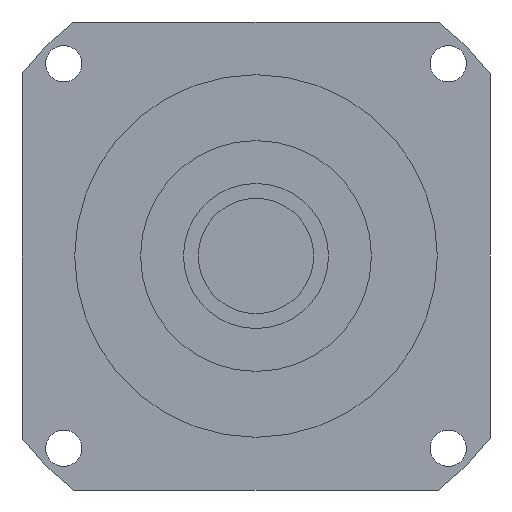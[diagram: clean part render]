
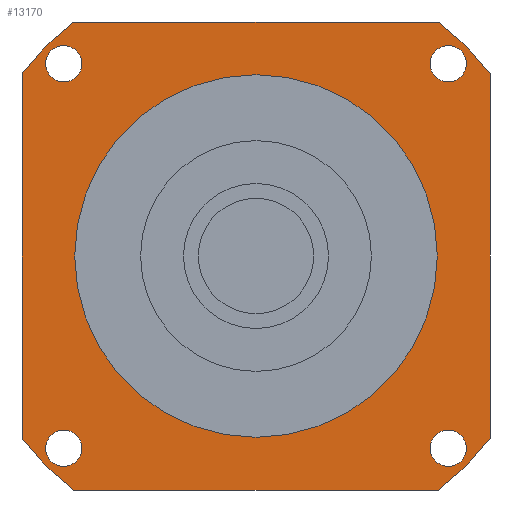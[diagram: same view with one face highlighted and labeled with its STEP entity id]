
A CAD part, left-side view. The second image highlights one B-rep face of the part: STEP entity #13170.
In plain terms, the highlighted planar face has unit normal (-1, 0, 0) as drawn and (0, 0, -1) by its records, which use the part's own axes.
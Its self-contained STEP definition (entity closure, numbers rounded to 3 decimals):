
#10190=CARTESIAN_POINT('',(71.,55.308,-84.7));
#10200=VERTEX_POINT('',#10190);
#10250=CARTESIAN_POINT('',(71.,71.,-84.7));
#10260=DIRECTION('',(0.,-1.,0.));
#10270=VECTOR('',#10260,1000.);
#10280=LINE('',#10250,#10270);
#10290=CARTESIAN_POINT('',(71.,-55.308,-84.7));
#10300=VERTEX_POINT('',#10290);
#10310=EDGE_CURVE('',#10200,#10300,#10280,.T.);
#10590=CARTESIAN_POINT('',(-55.308,71.,-84.7));
#10600=VERTEX_POINT('',#10590);
#10780=CARTESIAN_POINT('',(-71.,55.308,-84.7));
#10790=VERTEX_POINT('',#10780);
#10820=CARTESIAN_POINT('',(0.,0.,
-84.7));
#10830=DIRECTION('',(0.,0.,-1.));
#10840=DIRECTION('',(1.,0.,0.));
#10850=AXIS2_PLACEMENT_3D('',#10820,#10830,#10840);
#10860=CIRCLE('',#10850,90.);
#10870=EDGE_CURVE('',#10790,#10600,#10860,.T.);
#11670=CARTESIAN_POINT('',(55.,0.,-84.7));
#11680=VERTEX_POINT('',#11670);
#11710=CARTESIAN_POINT('',(0.,0.,
-84.7));
#11720=DIRECTION('',(0.,0.,1.));
#11730=DIRECTION('',(0.,1.,0.));
#11740=AXIS2_PLACEMENT_3D('',#11710,#11720,#11730);
#11750=CIRCLE('',#11740,55.);
#11760=CARTESIAN_POINT('',(0.,55.,-84.7));
#11770=VERTEX_POINT('',#11760);
#11780=EDGE_CURVE('',#11680,#11770,#11750,.T.);
#11800=CARTESIAN_POINT('',(-55.,0.,-84.7));
#11810=VERTEX_POINT('',#11800);
#11820=EDGE_CURVE('',#11770,#11810,#11750,.T.);
#11950=CARTESIAN_POINT('',(71.,71.,-84.7));
#11960=DIRECTION('',(0.,0.,-1.));
#11970=DIRECTION('',(1.,0.,0.));
#11980=AXIS2_PLACEMENT_3D('',#11950,#11960,#11970);
#11990=PLANE('',#11980);
#12000=CARTESIAN_POINT('',(-58.336,-58.336,-84.7));
#12010=DIRECTION('',(0.,0.,-1.));
#12020=DIRECTION('',(0.,-1.,0.));
#12030=AXIS2_PLACEMENT_3D('',#12000,#12010,#12020);
#12040=CIRCLE('',#12030,5.5);
#12050=CARTESIAN_POINT('',(-58.336,-63.836,-84.7));
#12060=VERTEX_POINT('',#12050);
#12070=CARTESIAN_POINT('',(-58.336,-52.836,-84.7));
#12080=VERTEX_POINT('',#12070);
#12090=EDGE_CURVE('',#12060,#12080,#12040,.T.);
#12100=ORIENTED_EDGE('',*,*,#12090,.F.);
#12110=EDGE_CURVE('',#12080,#12060,#12040,.T.);
#12120=ORIENTED_EDGE('',*,*,#12110,.F.);
#12130=EDGE_LOOP('',(#12120,#12100));
#12140=FACE_BOUND('',#12130,.T.);
#12150=CARTESIAN_POINT('',(-58.336,58.336,-84.7));
#12160=DIRECTION('',(0.,0.,-1.));
#12170=DIRECTION('',(-1.,0.,0.));
#12180=AXIS2_PLACEMENT_3D('',#12150,#12160,#12170);
#12190=CIRCLE('',#12180,5.5);
#12200=CARTESIAN_POINT('',(-63.836,58.336,-84.7));
#12210=VERTEX_POINT('',#12200);
#12220=CARTESIAN_POINT('',(-52.836,58.336,-84.7));
#12230=VERTEX_POINT('',#12220);
#12240=EDGE_CURVE('',#12210,#12230,#12190,.T.);
#12250=ORIENTED_EDGE('',*,*,#12240,.F.);
#12260=EDGE_CURVE('',#12230,#12210,#12190,.T.);
#12270=ORIENTED_EDGE('',*,*,#12260,.F.);
#12280=EDGE_LOOP('',(#12270,#12250));
#12290=FACE_BOUND('',#12280,.T.);
#12300=CARTESIAN_POINT('',(58.336,58.336,-84.7));
#12310=DIRECTION('',(0.,0.,-1.));
#12320=DIRECTION('',(0.,1.,0.));
#12330=AXIS2_PLACEMENT_3D('',#12300,#12310,#12320);
#12340=CIRCLE('',#12330,5.5);
#12350=CARTESIAN_POINT('',(58.336,63.836,-84.7));
#12360=VERTEX_POINT('',#12350);
#12370=CARTESIAN_POINT('',(58.336,52.836,-84.7));
#12380=VERTEX_POINT('',#12370);
#12390=EDGE_CURVE('',#12360,#12380,#12340,.T.);
#12400=ORIENTED_EDGE('',*,*,#12390,.F.);
#12410=EDGE_CURVE('',#12380,#12360,#12340,.T.);
#12420=ORIENTED_EDGE('',*,*,#12410,.F.);
#12430=EDGE_LOOP('',(#12420,#12400));
#12440=FACE_BOUND('',#12430,.T.);
#12450=EDGE_CURVE('',#11810,#11680,#11750,.T.);
#12460=ORIENTED_EDGE('',*,*,#12450,.T.);
#12470=ORIENTED_EDGE('',*,*,#11820,.T.);
#12480=ORIENTED_EDGE('',*,*,#11780,.T.);
#12490=EDGE_LOOP('',(#12480,#12470,#12460));
#12500=FACE_BOUND('',#12490,.T.);
#12510=CARTESIAN_POINT('',(-71.,71.,-84.7));
#12520=DIRECTION('',(1.,0.,0.));
#12530=VECTOR('',#12520,1000.);
#12540=LINE('',#12510,#12530);
#12550=CARTESIAN_POINT('',(55.308,71.,-84.7));
#12560=VERTEX_POINT('',#12550);
#12570=EDGE_CURVE('',#10600,#12560,#12540,.T.);
#12580=ORIENTED_EDGE('',*,*,#12570,.T.);
#12590=ORIENTED_EDGE('',*,*,#10870,.T.);
#12600=CARTESIAN_POINT('',(-71.,-71.,-84.7));
#12610=DIRECTION('',(0.,1.,0.));
#12620=VECTOR('',#12610,1000.);
#12630=LINE('',#12600,#12620);
#12640=CARTESIAN_POINT('',(-71.,-55.308,-84.7));
#12650=VERTEX_POINT('',#12640);
#12660=EDGE_CURVE('',#12650,#10790,#12630,.T.);
#12670=ORIENTED_EDGE('',*,*,#12660,.T.);
#12680=CARTESIAN_POINT('',(0.,0.,
-84.7));
#12690=DIRECTION('',(0.,0.,-1.));
#12700=DIRECTION('',(1.,0.,0.));
#12710=AXIS2_PLACEMENT_3D('',#12680,#12690,#12700);
#12720=CIRCLE('',#12710,90.);
#12730=CARTESIAN_POINT('',(-55.308,-71.,-84.7));
#12740=VERTEX_POINT('',#12730);
#12750=EDGE_CURVE('',#12740,#12650,#12720,.T.);
#12760=ORIENTED_EDGE('',*,*,#12750,.T.);
#12770=CARTESIAN_POINT('',(71.,-71.,-84.7));
#12780=DIRECTION('',(-1.,0.,0.));
#12790=VECTOR('',#12780,1000.);
#12800=LINE('',#12770,#12790);
#12810=CARTESIAN_POINT('',(55.308,-71.,-84.7));
#12820=VERTEX_POINT('',#12810);
#12830=EDGE_CURVE('',#12820,#12740,#12800,.T.);
#12840=ORIENTED_EDGE('',*,*,#12830,.T.);
#12850=CARTESIAN_POINT('',(0.,0.,
-84.7));
#12860=DIRECTION('',(0.,0.,-1.));
#12870=DIRECTION('',(1.,0.,0.));
#12880=AXIS2_PLACEMENT_3D('',#12850,#12860,#12870);
#12890=CIRCLE('',#12880,90.);
#12900=EDGE_CURVE('',#10300,#12820,#12890,.T.);
#12910=ORIENTED_EDGE('',*,*,#12900,.T.);
#12920=ORIENTED_EDGE('',*,*,#10310,.T.);
#12930=CARTESIAN_POINT('',(0.,0.,
-84.7));
#12940=DIRECTION('',(0.,0.,-1.));
#12950=DIRECTION('',(1.,0.,0.));
#12960=AXIS2_PLACEMENT_3D('',#12930,#12940,#12950);
#12970=CIRCLE('',#12960,90.);
#12980=EDGE_CURVE('',#12560,#10200,#12970,.T.);
#12990=ORIENTED_EDGE('',*,*,#12980,.T.);
#13000=EDGE_LOOP('',(#12990,#12920,#12910,#12840,#12760,#12670,#12590,
#12580));
#13010=FACE_OUTER_BOUND('',#13000,.T.);
#13020=CARTESIAN_POINT('',(58.336,-58.336,-84.7));
#13030=DIRECTION('',(0.,0.,-1.));
#13040=DIRECTION('',(1.,0.,0.));
#13050=AXIS2_PLACEMENT_3D('',#13020,#13030,#13040);
#13060=CIRCLE('',#13050,5.5);
#13070=CARTESIAN_POINT('',(63.836,-58.336,-84.7));
#13080=VERTEX_POINT('',#13070);
#13090=CARTESIAN_POINT('',(52.836,-58.336,-84.7));
#13100=VERTEX_POINT('',#13090);
#13110=EDGE_CURVE('',#13080,#13100,#13060,.T.);
#13120=ORIENTED_EDGE('',*,*,#13110,.F.);
#13130=EDGE_CURVE('',#13100,#13080,#13060,.T.);
#13140=ORIENTED_EDGE('',*,*,#13130,.F.);
#13150=EDGE_LOOP('',(#13140,#13120));
#13160=FACE_BOUND('',#13150,.T.);
#13170=ADVANCED_FACE('',(#12140,#12290,#12440,#12500,#13010,#13160),
#11990,.T.);
